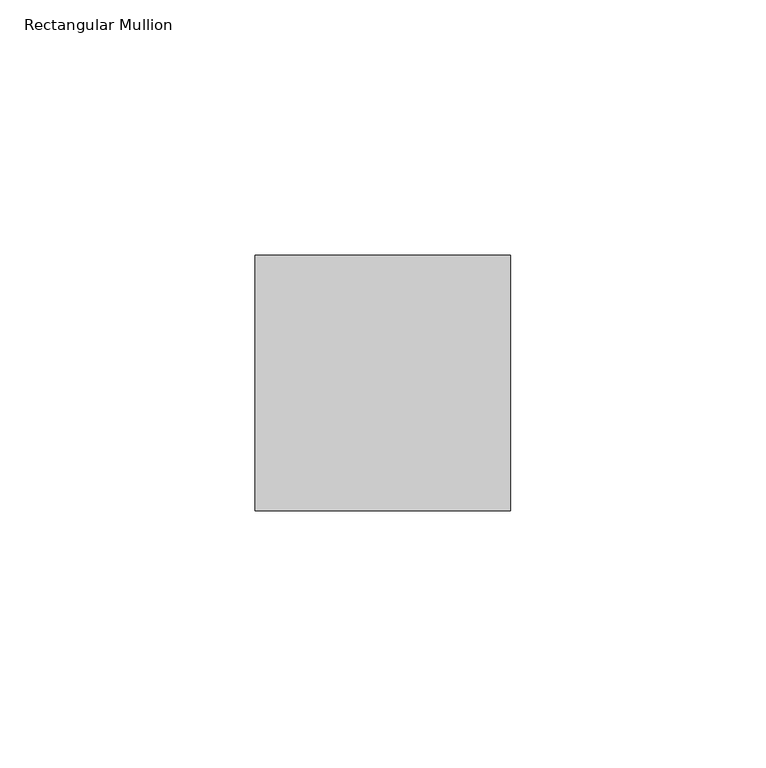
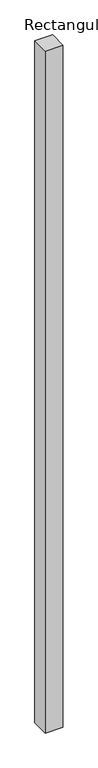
"""IFC4 building model written with IfcOpenShell, lengths in millimetres: member geometry, Rectangular Mullion : Mullion_Curtain Wall_Generic Showcase_50x50mm."""

from ifc_helpers import new_model, si_unit, frame, origin, place, context, project, spatial, polyline, outline, extrude, source, transform, mapped, element, save


def rectangular_mullion_322f0c36(model_context):
    return source(origin(), model_context, "Body", "SweptSolid", [
        extrude(outline(polyline([(25.0, 50.0), (25.0, 0.0), (-25.0, 0.0), (-25.0, 50.0), (25.0, 50.0)])), frame((0.0, 0.0, -2025.0), z_axis=(0.0, 0.0, 1.0), x_axis=(1.0, 0.0, 0.0)), (0.0, 0.0, 1.0), 2025.0),
    ])


if __name__ == "__main__":
    model = new_model("IFC4")
    model_context = context("Model", 3, world=origin())
    ifc_project = project(units=[si_unit("LENGTHUNIT", "METRE", prefix="MILLI")], contexts=[model_context])
    site = spatial("IfcSite", under=ifc_project)
    building = spatial("IfcBuilding", under=site)
    placement = place(None, origin())
    rectangular_mullion_shape = rectangular_mullion_322f0c36(model_context)
    element("IfcMember", 1, ObjectType="Rectangular Mullion : Mullion_Curtain Wall_Generic Showcase_50x50mm", at=placement, inside=building, context=model_context, shape_type="MappedRepresentation", body=[
        mapped(rectangular_mullion_shape, transform((0.0, 0.0, 0.0), x_axis=(1.0, 0.0, 0.0), y_axis=(0.0, 1.0, 0.0), z_axis=(0.0, 0.0, 1.0))),
    ])
    save(model, "model.ifc")
